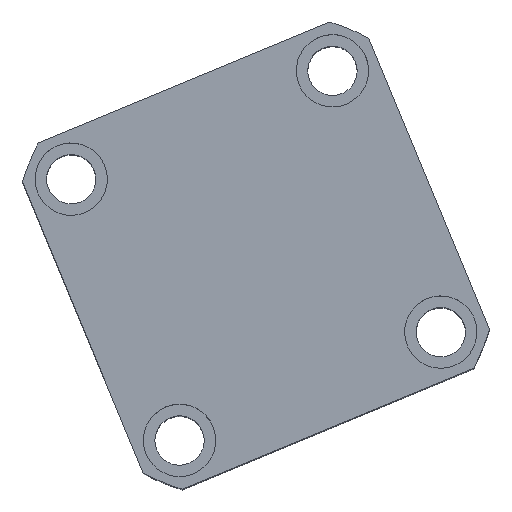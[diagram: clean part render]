
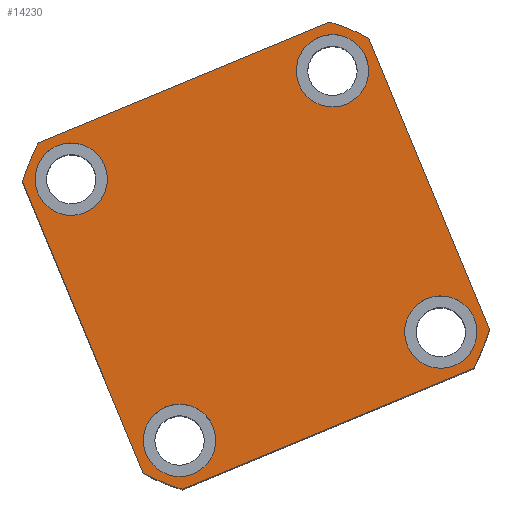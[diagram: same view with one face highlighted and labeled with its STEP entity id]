
A CAD part, top view. The second image highlights one B-rep face of the part: STEP entity #14230.
In plain terms, the highlighted planar face has unit normal (0, 0, 1) as drawn and (0, 0, -1) by its records, which use the part's own axes.
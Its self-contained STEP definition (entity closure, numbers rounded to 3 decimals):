
#462 = FACE_BOUND ( 'NONE', #720, .T. ) ;
#720 = EDGE_LOOP ( 'NONE', ( #20266, #10023 ) ) ;
#939 = DIRECTION ( 'NONE',  ( -1., 0., 0. ) ) ;
#1042 = EDGE_CURVE ( 'NONE', #12887, #9320, #2860, .T. ) ;
#1209 = CIRCLE ( 'NONE', #13895, 11. ) ;
#1421 = VECTOR ( 'NONE', #6497, 1000. ) ;
#1435 = CARTESIAN_POINT ( 'NONE',  ( 0., 0., 0. ) ) ;
#1504 = DIRECTION ( 'NONE',  ( 0., 0., 1. ) ) ;
#1700 = CARTESIAN_POINT ( 'NONE',  ( 43., -43., 0. ) ) ;
#1748 = CARTESIAN_POINT ( 'NONE',  ( 57., 47.971, 0. ) ) ;
#1850 = VECTOR ( 'NONE', #14336, 1000. ) ;
#1907 = LINE ( 'NONE', #6626, #1421 ) ;
#2028 = AXIS2_PLACEMENT_3D ( 'NONE', #3927, #15101, #5527 ) ;
#2133 = CIRCLE ( 'NONE', #9402, 11. ) ;
#2288 = EDGE_CURVE ( 'NONE', #2475, #12887, #14637, .T. ) ;
#2418 = EDGE_CURVE ( 'NONE', #10209, #7385, #1907, .T. ) ;
#2475 = VERTEX_POINT ( 'NONE', #3471 ) ;
#2665 = CIRCLE ( 'NONE', #5294, 74.5 ) ;
#2721 = DIRECTION ( 'NONE',  ( 1., 0., 0. ) ) ;
#2860 = LINE ( 'NONE', #10249, #14619 ) ;
#2926 = PLANE ( 'NONE',  #6566 ) ;
#2929 = CIRCLE ( 'NONE', #4620, 74.5 ) ;
#2970 = EDGE_CURVE ( 'NONE', #13445, #4111, #2133, .T. ) ;
#3042 = EDGE_CURVE ( 'NONE', #13027, #7495, #13876, .T. ) ;
#3273 = DIRECTION ( 'NONE',  ( -1., 0., 0. ) ) ;
#3467 = CARTESIAN_POINT ( 'NONE',  ( -32., 43., 0. ) ) ;
#3471 = CARTESIAN_POINT ( 'NONE',  ( -47.971, 57., 0. ) ) ;
#3561 = CARTESIAN_POINT ( 'NONE',  ( 32., 43., 0. ) ) ;
#3657 = CIRCLE ( 'NONE', #2028, 11. ) ;
#3864 = ORIENTED_EDGE ( 'NONE', *, *, #2970, .F. ) ;
#3927 = CARTESIAN_POINT ( 'NONE',  ( -43., 43., 0. ) ) ;
#3982 = AXIS2_PLACEMENT_3D ( 'NONE', #18064, #8648, #19594 ) ;
#4055 = CARTESIAN_POINT ( 'NONE',  ( -32., -43., 0. ) ) ;
#4101 = ORIENTED_EDGE ( 'NONE', *, *, #12009, .F. ) ;
#4111 = VERTEX_POINT ( 'NONE', #10039 ) ;
#4162 = EDGE_CURVE ( 'NONE', #9320, #10209, #20420, .T. ) ;
#4365 = CARTESIAN_POINT ( 'NONE',  ( -57., 47.971, 0. ) ) ;
#4405 = CARTESIAN_POINT ( 'NONE',  ( 43., 43., 0. ) ) ;
#4500 = DIRECTION ( 'NONE',  ( 1., 0., 0. ) ) ;
#4606 = FACE_BOUND ( 'NONE', #14403, .T. ) ;
#4620 = AXIS2_PLACEMENT_3D ( 'NONE', #18584, #9218, #20133 ) ;
#4716 = CARTESIAN_POINT ( 'NONE',  ( 43., 43., 0. ) ) ;
#5294 = AXIS2_PLACEMENT_3D ( 'NONE', #18458, #9097, #20019 ) ;
#5415 = AXIS2_PLACEMENT_3D ( 'NONE', #1435, #1504, #2721 ) ;
#5449 = AXIS2_PLACEMENT_3D ( 'NONE', #4716, #15902, #6355 ) ;
#5527 = DIRECTION ( 'NONE',  ( -1., 0., 0. ) ) ;
#5617 = FACE_BOUND ( 'NONE', #16144, .T. ) ;
#5686 = CARTESIAN_POINT ( 'NONE',  ( 32., -43., 0. ) ) ;
#5999 = AXIS2_PLACEMENT_3D ( 'NONE', #8571, #19518, #10222 ) ;
#6039 = DIRECTION ( 'NONE',  ( -1., 0., 0. ) ) ;
#6276 = CARTESIAN_POINT ( 'NONE',  ( -47.971, -57., 0. ) ) ;
#6334 = EDGE_CURVE ( 'NONE', #9963, #15180, #10430, .T. ) ;
#6355 = DIRECTION ( 'NONE',  ( -1., 0., 0. ) ) ;
#6443 = ORIENTED_EDGE ( 'NONE', *, *, #6334, .F. ) ;
#6480 = ORIENTED_EDGE ( 'NONE', *, *, #9917, .F. ) ;
#6497 = DIRECTION ( 'NONE',  ( 1., 0., 0. ) ) ;
#6566 = AXIS2_PLACEMENT_3D ( 'NONE', #9366, #14099, #4500 ) ;
#6626 = CARTESIAN_POINT ( 'NONE',  ( -57., -57., 0. ) ) ;
#7367 = CARTESIAN_POINT ( 'NONE',  ( -43., -43., 0. ) ) ;
#7385 = VERTEX_POINT ( 'NONE', #10300 ) ;
#7495 = VERTEX_POINT ( 'NONE', #5686 ) ;
#7686 = CARTESIAN_POINT ( 'NONE',  ( 54., 43., 0. ) ) ;
#7967 = CARTESIAN_POINT ( 'NONE',  ( -43., -43., 0. ) ) ;
#8415 = VERTEX_POINT ( 'NONE', #16872 ) ;
#8443 = CARTESIAN_POINT ( 'NONE',  ( -54., 43., 0. ) ) ;
#8459 = CIRCLE ( 'NONE', #5449, 11. ) ;
#8571 = CARTESIAN_POINT ( 'NONE',  ( -43., 43., 0. ) ) ;
#8578 = VERTEX_POINT ( 'NONE', #7686 ) ;
#8648 = DIRECTION ( 'NONE',  ( 0., 0., 1. ) ) ;
#9000 = CIRCLE ( 'NONE', #11177, 11. ) ;
#9030 = DIRECTION ( 'NONE',  ( -1., 0., 0. ) ) ;
#9097 = DIRECTION ( 'NONE',  ( 0., 0., 1. ) ) ;
#9218 = DIRECTION ( 'NONE',  ( 0., 0., 1. ) ) ;
#9320 = VERTEX_POINT ( 'NONE', #10906 ) ;
#9366 = CARTESIAN_POINT ( 'NONE',  ( 0., 0., 0. ) ) ;
#9402 = AXIS2_PLACEMENT_3D ( 'NONE', #7967, #20233, #20304 ) ;
#9917 = EDGE_CURVE ( 'NONE', #8415, #2475, #14342, .T. ) ;
#9963 = VERTEX_POINT ( 'NONE', #19855 ) ;
#10023 = ORIENTED_EDGE ( 'NONE', *, *, #18409, .F. ) ;
#10039 = CARTESIAN_POINT ( 'NONE',  ( -54., -43., 0. ) ) ;
#10203 = VECTOR ( 'NONE', #939, 1000. ) ;
#10209 = VERTEX_POINT ( 'NONE', #6276 ) ;
#10216 = DIRECTION ( 'NONE',  ( 0., -1., 0. ) ) ;
#10222 = DIRECTION ( 'NONE',  ( -1., 0., 0. ) ) ;
#10249 = CARTESIAN_POINT ( 'NONE',  ( -57., 57., 0. ) ) ;
#10300 = CARTESIAN_POINT ( 'NONE',  ( 47.971, -57., 0. ) ) ;
#10430 = LINE ( 'NONE', #14273, #1850 ) ;
#10565 = CARTESIAN_POINT ( 'NONE',  ( -57., 57., 0. ) ) ;
#10906 = CARTESIAN_POINT ( 'NONE',  ( -57., -47.971, 0. ) ) ;
#11177 = AXIS2_PLACEMENT_3D ( 'NONE', #4405, #15578, #6039 ) ;
#11265 = CIRCLE ( 'NONE', #17429, 11. ) ;
#11521 = EDGE_CURVE ( 'NONE', #7385, #9963, #2929, .T. ) ;
#11577 = AXIS2_PLACEMENT_3D ( 'NONE', #20372, #19090, #19022 ) ;
#11622 = ORIENTED_EDGE ( 'NONE', *, *, #11521, .F. ) ;
#11989 = CIRCLE ( 'NONE', #5999, 11. ) ;
#12000 = ORIENTED_EDGE ( 'NONE', *, *, #2418, .F. ) ;
#12009 = EDGE_CURVE ( 'NONE', #4111, #13445, #11265, .T. ) ;
#12072 = EDGE_CURVE ( 'NONE', #15180, #8415, #2665, .T. ) ;
#12277 = EDGE_CURVE ( 'NONE', #7495, #13027, #1209, .T. ) ;
#12470 = EDGE_CURVE ( 'NONE', #19045, #17846, #11989, .T. ) ;
#12879 = DIRECTION ( 'NONE',  ( 0., 0., -1. ) ) ;
#12887 = VERTEX_POINT ( 'NONE', #4365 ) ;
#13027 = VERTEX_POINT ( 'NONE', #14247 ) ;
#13182 = FACE_BOUND ( 'NONE', #16605, .T. ) ;
#13317 = ORIENTED_EDGE ( 'NONE', *, *, #16816, .F. ) ;
#13445 = VERTEX_POINT ( 'NONE', #4055 ) ;
#13876 = CIRCLE ( 'NONE', #11577, 11. ) ;
#13895 = AXIS2_PLACEMENT_3D ( 'NONE', #1700, #12879, #3273 ) ;
#14099 = DIRECTION ( 'NONE',  ( 0., 0., 1. ) ) ;
#14130 = ORIENTED_EDGE ( 'NONE', *, *, #1042, .F. ) ;
#14230 = ADVANCED_FACE ( 'NONE', ( #13182, #4606, #5617, #462, #16814 ), #2926, .F. ) ;
#14247 = CARTESIAN_POINT ( 'NONE',  ( 54., -43., 0. ) ) ;
#14273 = CARTESIAN_POINT ( 'NONE',  ( 57., 57., 0. ) ) ;
#14276 = EDGE_CURVE ( 'NONE', #19055, #8578, #8459, .T. ) ;
#14336 = DIRECTION ( 'NONE',  ( 0., 1., 0. ) ) ;
#14342 = LINE ( 'NONE', #10565, #10203 ) ;
#14403 = EDGE_LOOP ( 'NONE', ( #15725, #15146 ) ) ;
#14619 = VECTOR ( 'NONE', #10216, 1000. ) ;
#14637 = CIRCLE ( 'NONE', #5415, 74.5 ) ;
#14861 = EDGE_LOOP ( 'NONE', ( #19107, #6443, #11622, #12000, #15448, #14130, #15190, #6480 ) ) ;
#15101 = DIRECTION ( 'NONE',  ( 0., 0., -1. ) ) ;
#15146 = ORIENTED_EDGE ( 'NONE', *, *, #3042, .F. ) ;
#15180 = VERTEX_POINT ( 'NONE', #1748 ) ;
#15190 = ORIENTED_EDGE ( 'NONE', *, *, #2288, .F. ) ;
#15448 = ORIENTED_EDGE ( 'NONE', *, *, #4162, .F. ) ;
#15486 = ORIENTED_EDGE ( 'NONE', *, *, #14276, .F. ) ;
#15578 = DIRECTION ( 'NONE',  ( 0., 0., -1. ) ) ;
#15725 = ORIENTED_EDGE ( 'NONE', *, *, #12277, .F. ) ;
#15902 = DIRECTION ( 'NONE',  ( 0., 0., -1. ) ) ;
#16144 = EDGE_LOOP ( 'NONE', ( #15486, #13317 ) ) ;
#16605 = EDGE_LOOP ( 'NONE', ( #4101, #3864 ) ) ;
#16814 = FACE_OUTER_BOUND ( 'NONE', #14861, .T. ) ;
#16816 = EDGE_CURVE ( 'NONE', #8578, #19055, #9000, .T. ) ;
#16872 = CARTESIAN_POINT ( 'NONE',  ( 47.971, 57., 0. ) ) ;
#17429 = AXIS2_PLACEMENT_3D ( 'NONE', #7367, #18397, #9030 ) ;
#17846 = VERTEX_POINT ( 'NONE', #3467 ) ;
#18064 = CARTESIAN_POINT ( 'NONE',  ( 0., 0., 0. ) ) ;
#18397 = DIRECTION ( 'NONE',  ( 0., 0., -1. ) ) ;
#18409 = EDGE_CURVE ( 'NONE', #17846, #19045, #3657, .T. ) ;
#18458 = CARTESIAN_POINT ( 'NONE',  ( 0., 0., 0. ) ) ;
#18584 = CARTESIAN_POINT ( 'NONE',  ( 0., 0., 0. ) ) ;
#19022 = DIRECTION ( 'NONE',  ( -1., 0., 0. ) ) ;
#19045 = VERTEX_POINT ( 'NONE', #8443 ) ;
#19055 = VERTEX_POINT ( 'NONE', #3561 ) ;
#19090 = DIRECTION ( 'NONE',  ( 0., 0., -1. ) ) ;
#19107 = ORIENTED_EDGE ( 'NONE', *, *, #12072, .F. ) ;
#19518 = DIRECTION ( 'NONE',  ( 0., 0., -1. ) ) ;
#19594 = DIRECTION ( 'NONE',  ( 1., 0., 0. ) ) ;
#19855 = CARTESIAN_POINT ( 'NONE',  ( 57., -47.971, 0. ) ) ;
#20019 = DIRECTION ( 'NONE',  ( 1., 0., 0. ) ) ;
#20133 = DIRECTION ( 'NONE',  ( 1., 0., 0. ) ) ;
#20233 = DIRECTION ( 'NONE',  ( 0., 0., -1. ) ) ;
#20266 = ORIENTED_EDGE ( 'NONE', *, *, #12470, .F. ) ;
#20304 = DIRECTION ( 'NONE',  ( -1., 0., 0. ) ) ;
#20372 = CARTESIAN_POINT ( 'NONE',  ( 43., -43., 0. ) ) ;
#20420 = CIRCLE ( 'NONE', #3982, 74.5 ) ;
